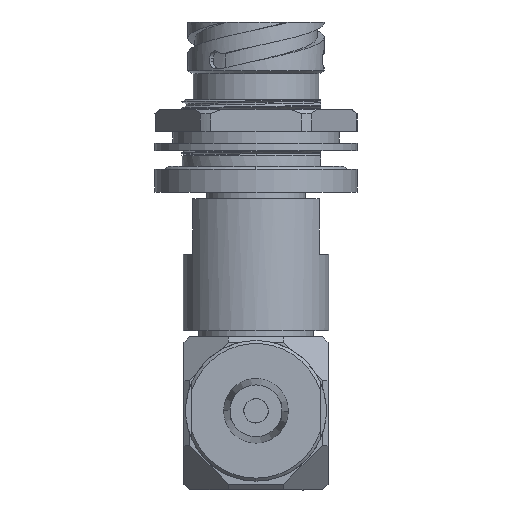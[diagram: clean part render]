
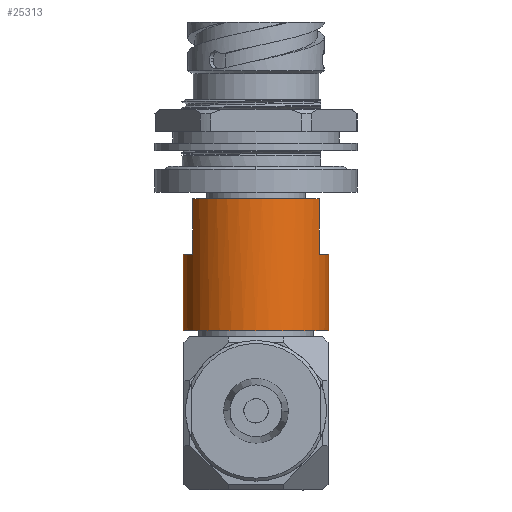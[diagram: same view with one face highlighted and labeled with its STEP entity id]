
A CAD part, front view. The second image highlights one B-rep face of the part: STEP entity #25313.
In plain terms, the highlighted cylindrical face has radius 12.509 mm (diameter 25.019 mm), a partial arc.
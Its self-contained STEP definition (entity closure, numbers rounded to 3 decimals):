
#218 = ORIENTED_EDGE ( 'NONE', *, *, #3861, .F. ) ;
#294 = VERTEX_POINT ( 'NONE', #14151 ) ;
#768 = EDGE_CURVE ( 'NONE', #13383, #9701, #6737, .T. ) ;
#1110 = AXIS2_PLACEMENT_3D ( 'NONE', #10554, #8603, #15116 ) ;
#1960 = LINE ( 'NONE', #16663, #20170 ) ;
#2535 = CARTESIAN_POINT ( 'NONE',  ( 12.509, 0., -53.01 ) ) ;
#2879 = VERTEX_POINT ( 'NONE', #3335 ) ;
#3335 = CARTESIAN_POINT ( 'NONE',  ( 10.858, -6.211, -39.853 ) ) ;
#3647 = ORIENTED_EDGE ( 'NONE', *, *, #11912, .F. ) ;
#3861 = EDGE_CURVE ( 'NONE', #294, #13383, #13955, .T. ) ;
#5103 = CARTESIAN_POINT ( 'NONE',  ( 10.858, -6.211, -30.328 ) ) ;
#6313 = AXIS2_PLACEMENT_3D ( 'NONE', #18068, #11530, #6964 ) ;
#6663 = DIRECTION ( 'NONE',  ( 1., 0., 0. ) ) ;
#6737 = LINE ( 'NONE', #23923, #10353 ) ;
#6797 = CIRCLE ( 'NONE', #27165, 12.509 ) ;
#6964 = DIRECTION ( 'NONE',  ( 1., 0., 0. ) ) ;
#7091 = CYLINDRICAL_SURFACE ( 'NONE', #6313, 12.509 ) ;
#7106 = EDGE_CURVE ( 'NONE', #294, #18207, #13124, .T. ) ;
#7236 = DIRECTION ( 'NONE',  ( 0., 0., -1. ) ) ;
#7497 = VERTEX_POINT ( 'NONE', #18227 ) ;
#8603 = DIRECTION ( 'NONE',  ( 0., 0., 1. ) ) ;
#8952 = EDGE_CURVE ( 'NONE', #7497, #15777, #24935, .T. ) ;
#9701 = VERTEX_POINT ( 'NONE', #23387 ) ;
#10353 = VECTOR ( 'NONE', #17147, 1000. ) ;
#10554 = CARTESIAN_POINT ( 'NONE',  ( 0., 0., -39.853 ) ) ;
#11530 = DIRECTION ( 'NONE',  ( 0., 0., -1. ) ) ;
#11861 = DIRECTION ( 'NONE',  ( 1., 0., 0. ) ) ;
#11912 = EDGE_CURVE ( 'NONE', #25252, #2879, #1960, .T. ) ;
#12233 = VECTOR ( 'NONE', #23675, 1000. ) ;
#12260 = CIRCLE ( 'NONE', #16701, 12.509 ) ;
#12652 = ORIENTED_EDGE ( 'NONE', *, *, #8952, .F. ) ;
#12761 = DIRECTION ( 'NONE',  ( 0., 0., -1. ) ) ;
#13124 = LINE ( 'NONE', #13255, #12233 ) ;
#13255 = CARTESIAN_POINT ( 'NONE',  ( -12.51, 0., -30.328 ) ) ;
#13338 = CARTESIAN_POINT ( 'NONE',  ( 0., 0., -53.01 ) ) ;
#13383 = VERTEX_POINT ( 'NONE', #22473 ) ;
#13516 = DIRECTION ( 'NONE',  ( 0., 0., 1. ) ) ;
#13955 = CIRCLE ( 'NONE', #1110, 12.509 ) ;
#14151 = CARTESIAN_POINT ( 'NONE',  ( -12.51, 0., -39.853 ) ) ;
#14672 = CARTESIAN_POINT ( 'NONE',  ( 12.509, 0., -30.328 ) ) ;
#14996 = ORIENTED_EDGE ( 'NONE', *, *, #19799, .T. ) ;
#15026 = EDGE_CURVE ( 'NONE', #15777, #18207, #6797, .T. ) ;
#15116 = DIRECTION ( 'NONE',  ( 1., 0., 0. ) ) ;
#15706 = ORIENTED_EDGE ( 'NONE', *, *, #768, .F. ) ;
#15777 = VERTEX_POINT ( 'NONE', #2535 ) ;
#15837 = DIRECTION ( 'NONE',  ( 1., 0., 0. ) ) ;
#15881 = ORIENTED_EDGE ( 'NONE', *, *, #27389, .F. ) ;
#16663 = CARTESIAN_POINT ( 'NONE',  ( 10.858, -6.211, -30.328 ) ) ;
#16701 = AXIS2_PLACEMENT_3D ( 'NONE', #26269, #13516, #11861 ) ;
#17147 = DIRECTION ( 'NONE',  ( 0., 0., 1. ) ) ;
#18068 = CARTESIAN_POINT ( 'NONE',  ( 0., 0., -30.328 ) ) ;
#18207 = VERTEX_POINT ( 'NONE', #26940 ) ;
#18227 = CARTESIAN_POINT ( 'NONE',  ( 12.509, 0., -39.853 ) ) ;
#18421 = CIRCLE ( 'NONE', #22472, 12.509 ) ;
#19799 = EDGE_CURVE ( 'NONE', #25252, #9701, #18421, .T. ) ;
#19867 = FACE_OUTER_BOUND ( 'NONE', #25590, .T. ) ;
#20029 = ORIENTED_EDGE ( 'NONE', *, *, #7106, .T. ) ;
#20170 = VECTOR ( 'NONE', #12761, 1000. ) ;
#21212 = ORIENTED_EDGE ( 'NONE', *, *, #15026, .F. ) ;
#22175 = CARTESIAN_POINT ( 'NONE',  ( 0., 0., -30.328 ) ) ;
#22472 = AXIS2_PLACEMENT_3D ( 'NONE', #22175, #25649, #6663 ) ;
#22473 = CARTESIAN_POINT ( 'NONE',  ( -10.858, -6.211, -39.853 ) ) ;
#23147 = DIRECTION ( 'NONE',  ( 0., 0., -1. ) ) ;
#23387 = CARTESIAN_POINT ( 'NONE',  ( -10.859, -6.211, -30.328 ) ) ;
#23675 = DIRECTION ( 'NONE',  ( 0., 0., -1. ) ) ;
#23876 = VECTOR ( 'NONE', #23147, 1000. ) ;
#23923 = CARTESIAN_POINT ( 'NONE',  ( -10.858, -6.211, -30.328 ) ) ;
#24935 = LINE ( 'NONE', #14672, #23876 ) ;
#25252 = VERTEX_POINT ( 'NONE', #5103 ) ;
#25313 = ADVANCED_FACE ( 'NONE', ( #19867 ), #7091, .T. ) ;
#25590 = EDGE_LOOP ( 'NONE', ( #218, #20029, #21212, #12652, #15881, #3647, #14996, #15706 ) ) ;
#25649 = DIRECTION ( 'NONE',  ( 0., 0., -1. ) ) ;
#26269 = CARTESIAN_POINT ( 'NONE',  ( 0., 0., -39.853 ) ) ;
#26940 = CARTESIAN_POINT ( 'NONE',  ( -12.509, 0., -53.01 ) ) ;
#27165 = AXIS2_PLACEMENT_3D ( 'NONE', #13338, #7236, #15837 ) ;
#27389 = EDGE_CURVE ( 'NONE', #2879, #7497, #12260, .T. ) ;
